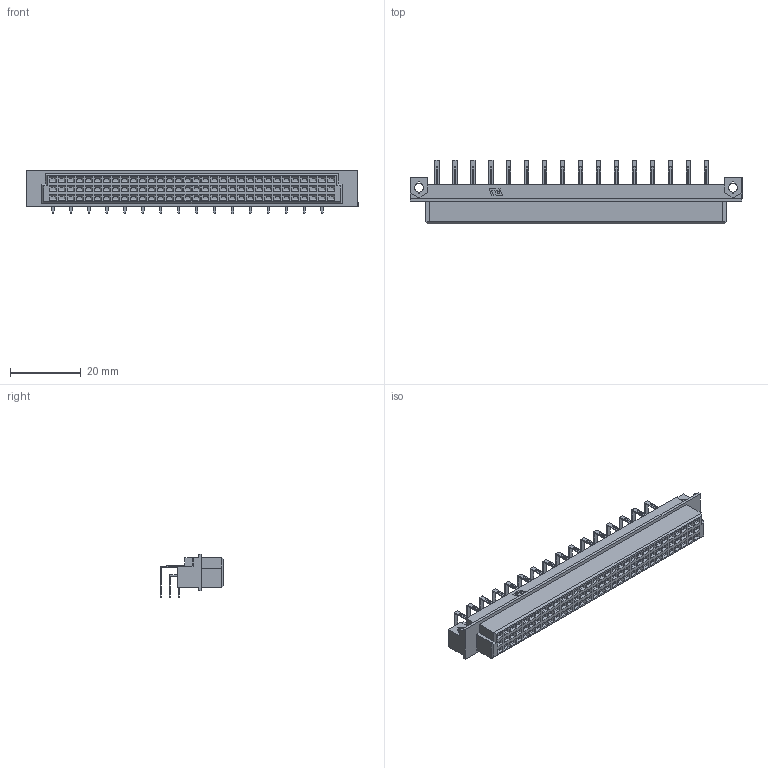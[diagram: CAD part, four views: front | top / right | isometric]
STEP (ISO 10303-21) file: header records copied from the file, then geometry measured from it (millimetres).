
FILE_DESCRIPTION (( 'STEP AP203' ), '1' );
FILE_NAME ('9001-C24481C00A.STEP', '2018-01-18T07:42:00', ( '' ), ( '' ), 'SwSTEP 2.0', 'SolidWorks 2011', '' );
FILE_SCHEMA (( 'CONFIG_CONTROL_DESIGN' ));
Length unit declared in the file: millimetre
Products named in the file (5): 9001-C24481C00A; 9001-C14Housing-2_2; 9001-C23-2_2; 9001-C25-2_2; 9001-C24-2_2
Assembly tree (49 placements, depth 2):
  9001-C24481C00A
    9001-C24-2_2  x16
    9001-C25-2_2  x16
    9001-C23-2_2  x16
    9001-C14Housing-2_2
Bounding box: 94 x 17.97 x 12.35 mm (x, y, z)
Volume: 8663.7 mm3; surface area: 7981 mm2
Topology: 97 solids, 97 shells, 3353 faces, 8756 edges, 5696 vertices
Faces by surface type: plane 2597, cylinder 756
Entity records: 32367 total; most frequent: CARTESIAN_POINT 5473, ORIENTED_EDGE 5152, DIRECTION 4946, EDGE_CURVE 2576, LINE 2420, VECTOR 2420, VERTEX_POINT 1586, AXIS2_PLACEMENT_3D 1263
